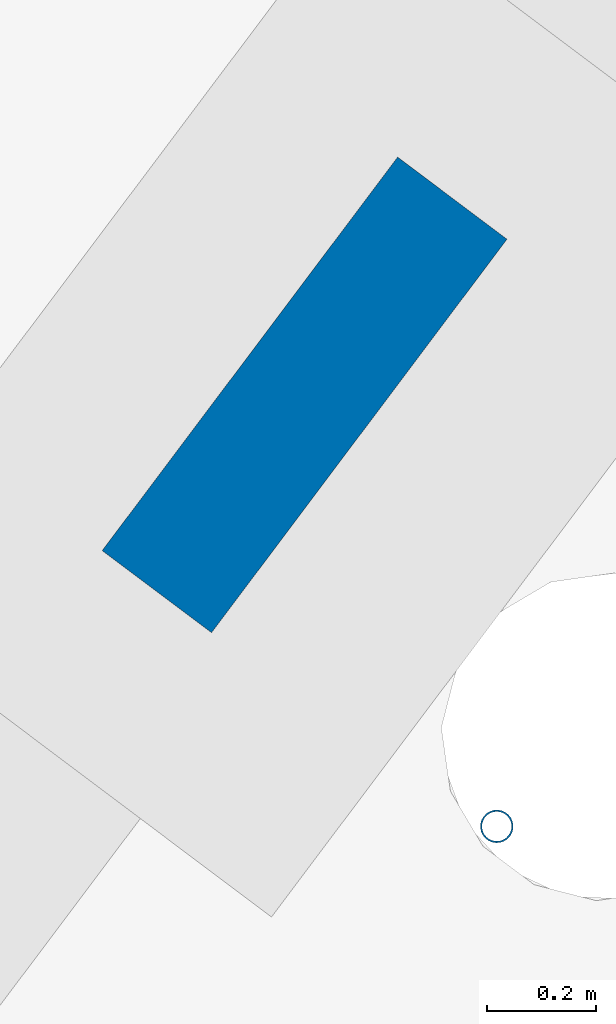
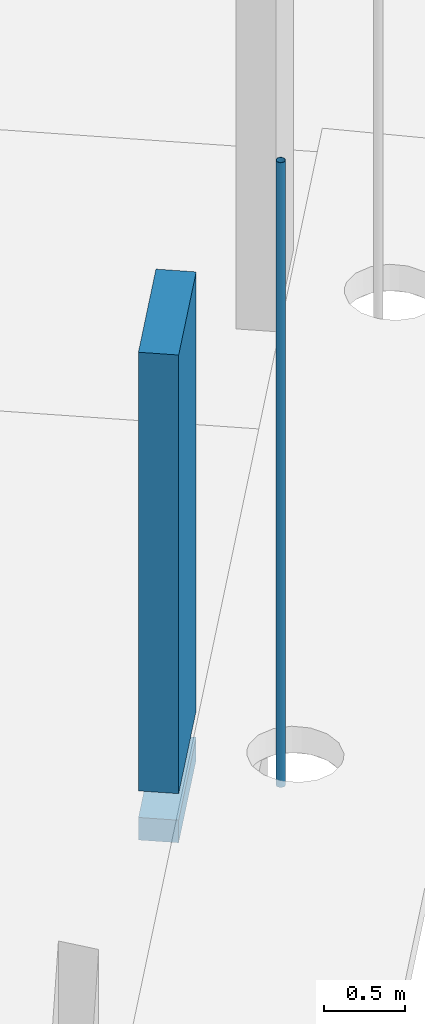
# One storey, part 7 of 24: 2 columns.
"""IFC2X3 building model written with IfcOpenShell, lengths in metres."""

from ifc_helpers import new_model, entity, si_unit, converted_unit, derived_unit, direction, frame, frame_2d, origin, place, context, subcontext, project, spatial, rectangle, hollow_circle, extrude, source, transform, mapped, material, type_object, type_shapes, element, save


model = new_model("IFC2X3")

# Units and contexts
model_context = context("Model", 3, precision=1e-05, world=origin(), true_north=direction((6.123031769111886e-17, 1.0)))
body_context = subcontext(model_context, "Body", "Model", "MODEL_VIEW")
ifc_project = project(units=[si_unit("LENGTHUNIT", "METRE"), si_unit("AREAUNIT", "SQUARE_METRE"), si_unit("VOLUMEUNIT", "CUBIC_METRE"), converted_unit("PLANEANGLEUNIT", "DEGREE", entity("IfcRatioMeasure", 0.017453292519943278), si_unit("PLANEANGLEUNIT", "RADIAN"), dimensions=[0, 0, 0, 0, 0, 0, 0]), si_unit("MASSUNIT", "GRAM", prefix="KILO"), derived_unit("MASSDENSITYUNIT", [(si_unit("MASSUNIT", "GRAM", prefix="KILO"), 1), (si_unit("LENGTHUNIT", "METRE"), -3)]), derived_unit("IONCONCENTRATIONUNIT", [(si_unit("MASSUNIT", "GRAM", prefix="KILO"), 1), (si_unit("LENGTHUNIT", "METRE"), -3)]), derived_unit("MOMENTOFINERTIAUNIT", [(si_unit("LENGTHUNIT", "METRE"), 4)]), si_unit("TIMEUNIT", "SECOND"), si_unit("FREQUENCYUNIT", "HERTZ"), si_unit("THERMODYNAMICTEMPERATUREUNIT", "DEGREE_CELSIUS"), derived_unit("THERMALTRANSMITTANCEUNIT", [(si_unit("MASSUNIT", "GRAM", prefix="KILO"), 1), (si_unit("THERMODYNAMICTEMPERATUREUNIT", "KELVIN"), -1), (si_unit("TIMEUNIT", "SECOND"), -3)]), derived_unit("THERMALCONDUCTANCEUNIT", [(si_unit("MASSUNIT", "GRAM", prefix="KILO"), 1), (si_unit("THERMODYNAMICTEMPERATUREUNIT", "KELVIN"), -1), (si_unit("TIMEUNIT", "SECOND"), -3), (si_unit("LENGTHUNIT", "METRE"), 1)]), derived_unit("VOLUMETRICFLOWRATEUNIT", [(si_unit("LENGTHUNIT", "METRE"), 3), (si_unit("TIMEUNIT", "SECOND"), -1)]), derived_unit("MASSFLOWRATEUNIT", [(si_unit("MASSUNIT", "GRAM", prefix="KILO"), 1), (si_unit("TIMEUNIT", "SECOND"), -1)]), derived_unit("ROTATIONALFREQUENCYUNIT", [(si_unit("TIMEUNIT", "SECOND"), -1)]), si_unit("ELECTRICCURRENTUNIT", "AMPERE"), si_unit("ELECTRICVOLTAGEUNIT", "VOLT"), si_unit("POWERUNIT", "WATT"), si_unit("FORCEUNIT", "NEWTON", prefix="KILO"), si_unit("ILLUMINANCEUNIT", "LUX"), si_unit("LUMINOUSFLUXUNIT", "LUMEN"), si_unit("LUMINOUSINTENSITYUNIT", "CANDELA"), derived_unit("USERDEFINED", [(si_unit("MASSUNIT", "GRAM", prefix="KILO"), -1), (si_unit("LENGTHUNIT", "METRE"), -2), (si_unit("TIMEUNIT", "SECOND"), 3), (si_unit("LUMINOUSFLUXUNIT", "LUMEN"), 1)]), derived_unit("USERDEFINED", [(si_unit("MASSUNIT", "GRAM", prefix="KILO"), 1), (si_unit("TIMEUNIT", "SECOND"), -3), (si_unit("LENGTHUNIT", "METRE"), 3), (si_unit("ELECTRICCURRENTUNIT", "AMPERE"), -2)]), derived_unit("SOUNDPOWERUNIT", [(si_unit("MASSUNIT", "GRAM", prefix="KILO"), 1), (si_unit("TIMEUNIT", "SECOND"), -3), (si_unit("LENGTHUNIT", "METRE"), 2)]), derived_unit("SOUNDPRESSUREUNIT", [(si_unit("MASSUNIT", "GRAM", prefix="KILO"), 1), (si_unit("LENGTHUNIT", "METRE"), -1), (si_unit("TIMEUNIT", "SECOND"), -2)]), derived_unit("LINEARVELOCITYUNIT", [(si_unit("LENGTHUNIT", "METRE"), 1), (si_unit("TIMEUNIT", "SECOND"), -1)]), si_unit("PRESSUREUNIT", "PASCAL"), derived_unit("USERDEFINED", [(si_unit("MASSUNIT", "GRAM", prefix="KILO"), 1), (si_unit("LENGTHUNIT", "METRE"), -2), (si_unit("TIMEUNIT", "SECOND"), -2)]), derived_unit("LINEARFORCEUNIT", [(si_unit("MASSUNIT", "GRAM", prefix="KILO"), 1), (si_unit("TIMEUNIT", "SECOND"), -2)]), derived_unit("PLANARFORCEUNIT", [(si_unit("MASSUNIT", "GRAM", prefix="KILO"), 1), (si_unit("LENGTHUNIT", "METRE"), -1), (si_unit("TIMEUNIT", "SECOND"), -2)]), derived_unit("SPECIFICHEATCAPACITYUNIT", [(si_unit("THERMODYNAMICTEMPERATUREUNIT", "KELVIN"), -1), (si_unit("LENGTHUNIT", "METRE"), 2), (si_unit("TIMEUNIT", "SECOND"), -2)]), derived_unit("HEATINGVALUEUNIT", [(si_unit("LENGTHUNIT", "METRE"), 2), (si_unit("TIMEUNIT", "SECOND"), -2)]), derived_unit("VAPORPERMEABILITYUNIT", [(si_unit("LENGTHUNIT", "METRE"), -1), (si_unit("TIMEUNIT", "SECOND"), 1)]), derived_unit("DYNAMICVISCOSITYUNIT", [(si_unit("MASSUNIT", "GRAM", prefix="KILO"), 1), (si_unit("TIMEUNIT", "SECOND"), -1), (si_unit("LENGTHUNIT", "METRE"), -1)]), derived_unit("THERMALEXPANSIONCOEFFICIENTUNIT", [(si_unit("THERMODYNAMICTEMPERATUREUNIT", "KELVIN"), -1)]), derived_unit("MODULUSOFELASTICITYUNIT", [(si_unit("MASSUNIT", "GRAM", prefix="KILO"), 1), (si_unit("LENGTHUNIT", "METRE"), -1), (si_unit("TIMEUNIT", "SECOND"), -2)]), derived_unit("ISOTHERMALMOISTURECAPACITYUNIT", [(si_unit("LENGTHUNIT", "METRE"), 3), (si_unit("MASSUNIT", "GRAM", prefix="KILO"), -1)]), derived_unit("MOISTUREDIFFUSIVITYUNIT", [(si_unit("TIMEUNIT", "SECOND"), -1), (si_unit("LENGTHUNIT", "METRE"), 2)])], contexts=[model_context])

# Site, building, storey
site_placement = place(None, origin())
site = spatial("IfcSite", under=ifc_project, at=site_placement, Name="Default", CompositionType="ELEMENT")
building_placement = place(site_placement, frame((0.0, 0.0, 235.0), z_axis=(0.0, 0.0, 1.0), x_axis=(-0.7996477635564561, 0.6004693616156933, 0.0)))
building = spatial("IfcBuilding", under=site, at=building_placement, CompositionType="ELEMENT")
storey_placement = place(building_placement, origin())
storey = spatial("IfcBuildingStorey", under=building, at=storey_placement, Name="P0- Escola", CompositionType="ELEMENT", Elevation=0.0)

# Columns
ifc_material_1 = material(Name="_Formigó- T1- STR")
column_type_1 = type_object("IfcColumnType", Name="STR- P- Formigó- Rectangular- T1:25x90cm", PredefinedType="COLUMN", material=ifc_material_1)
shared_shape_1 = source(origin(), body_context, "Body", "SweptSolid", [
    extrude(rectangle(XDim=0.899999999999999, YDim=0.25000000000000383, at=frame_2d((0.0, 8.666678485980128e-15), x_axis=(1.0, 0.0))), frame((53.92014768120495, -29.915191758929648, -0.57), z_axis=(0.0, 0.0, 1.0), x_axis=(0.0, -1.0, 0.0)), (0.0, 0.0, 1.0), 0.16999999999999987),
    extrude(rectangle(XDim=0.899999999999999, YDim=0.25000000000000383, at=frame_2d((0.0, 8.666678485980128e-15), x_axis=(1.0, 0.0))), frame((53.92014768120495, -29.915191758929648, -0.2), z_axis=(0.0, 0.0, 1.0), x_axis=(0.0, -1.0, 0.0)), (0.0, 0.0, 1.0), 3.3000000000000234),
])
type_shapes(column_type_1, [shared_shape_1])
column_1_placement = place(storey_placement, origin())
element("IfcColumn", 1, at=column_1_placement, inside=storey, type_object=column_type_1, material=ifc_material_1, Name="STR- P- Formigó- Rectangular- T1:25x90cm", ObjectType="STR- P- Formigó- Rectangular- T1:25x90cm", context=body_context, shape_type="MappedRepresentation", body=[
    mapped(shared_shape_1, transform((0.0, 0.0, 0.0), scale=1.0)),
])
ifc_material_2 = material(Name="Metal - Acero - 345 MPa")
column_type_2 = type_object("IfcColumnType", Name="STR- P- Acer- CHS- Circular- T1:60.3 x 3CHS", PredefinedType="COLUMN", material=ifc_material_2)
shared_shape_2 = source(origin(), body_context, "Body", "SweptSolid", [
    extrude(hollow_circle(Radius=0.03014999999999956, WallThickness=0.0029999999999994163, at=frame_2d((-4.81877898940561e-19, 4.854464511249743e-17), x_axis=(1.0, 0.0))), frame((0.0, 0.0, -0.1)), (0.0, 0.0, 1.0), 4.700000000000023),
])
type_shapes(column_type_2, [shared_shape_2])
column_2_placement = place(storey_placement, frame((53.16514768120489, -29.49519175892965, 0.0)))
element("IfcColumn", 2, at=column_2_placement, inside=storey, type_object=column_type_2, material=ifc_material_2, Name="STR- P- Acer- CHS- Circular- T1:60.3 x 3CHS", ObjectType="STR- P- Acer- CHS- Circular- T1:60.3 x 3CHS", context=body_context, shape_type="MappedRepresentation", body=[
    mapped(shared_shape_2, transform((0.0, 0.0, 0.0), scale=1.0)),
])

save(model, "model.ifc")
